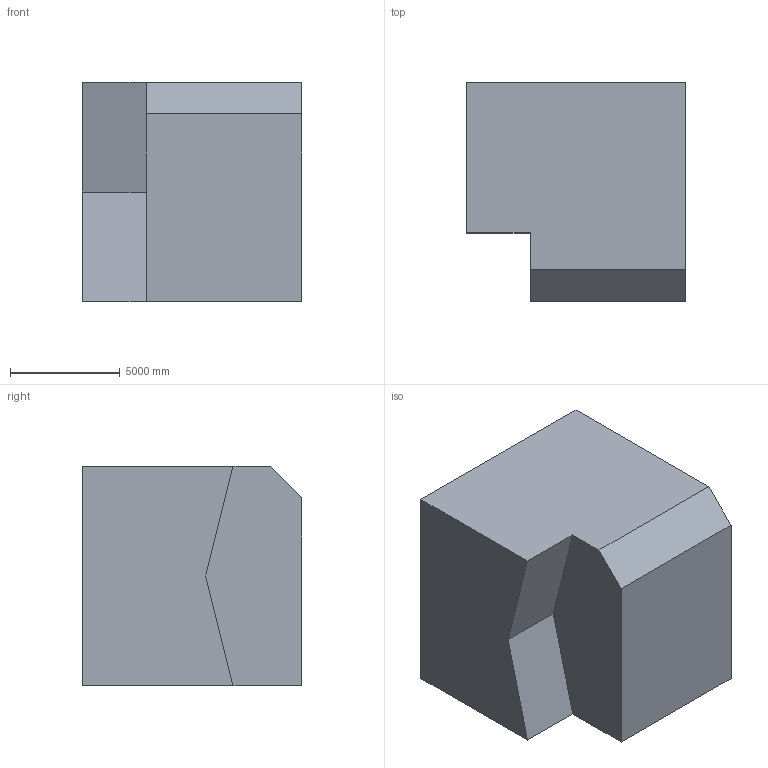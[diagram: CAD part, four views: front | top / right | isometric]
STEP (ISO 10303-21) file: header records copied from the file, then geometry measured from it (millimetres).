
FILE_DESCRIPTION (( 'STEP AP203' ), '1' );
FILE_NAME ('172.STEP', '2022-07-28T13:48:28', ( 'user' ), ( '' ), 'SwSTEP 2.0', 'SolidWorks 2021', '' );
FILE_SCHEMA (( 'CONFIG_CONTROL_DESIGN' ));
Length unit declared in the file: centimetre
Products named in the file (1): 172
Bounding box: 10000 x 10000 x 10000 mm (x, y, z)
Volume: 883320386272.5 mm3; surface area: 574644743.2 mm2
Topology: 1 solids, 1 shells, 10 faces, 24 edges, 16 vertices
Faces by surface type: plane 10
Entity records: 365 total; most frequent: CARTESIAN_POINT 51, ORIENTED_EDGE 48, DIRECTION 46, VECTOR 24, EDGE_CURVE 24, LINE 24, VERTEX_POINT 16, AXIS2_PLACEMENT_3D 11
